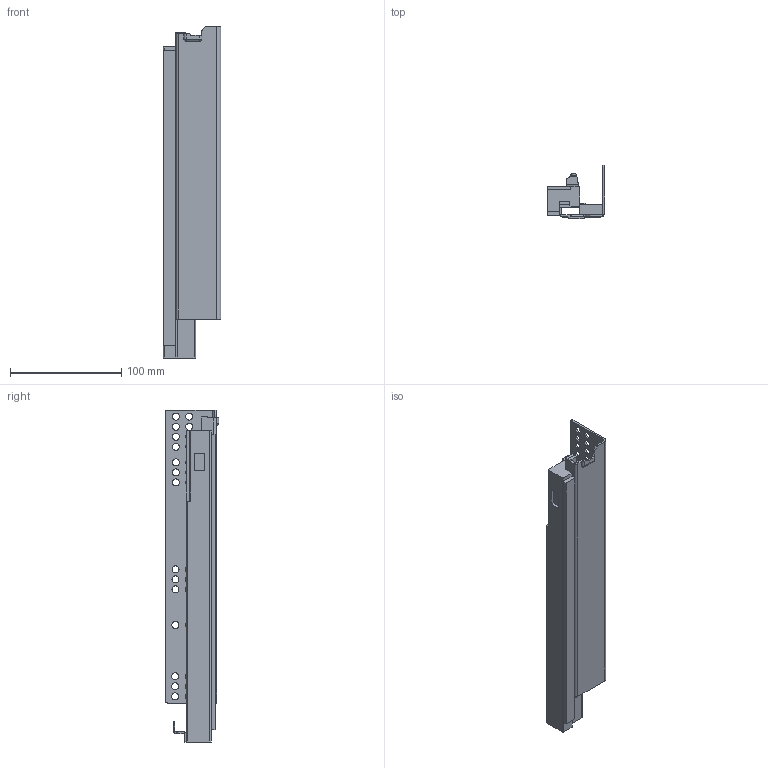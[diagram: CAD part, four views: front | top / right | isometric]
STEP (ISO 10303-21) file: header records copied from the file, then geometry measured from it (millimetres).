
FILE_DESCRIPTION (( 'STEP AP203' ), '1' );
FILE_NAME ('TS10300H-R-DTC3D-close.STEP', '2021-07-10T01:02:38', ( 'df' ), ( 'Microsoft' ), 'SwSTEP 2.0', 'SolidWorks 2018', '' );
FILE_SCHEMA (( 'CONFIG_CONTROL_DESIGN' ));
Length unit declared in the file: millimetre
Products named in the file (1): TS10300H-R-DTC3D-close
Bounding box: 51.73 x 48 x 298 mm (x, y, z)
Volume: 238270.4 mm3; surface area: 76066.4 mm2
Topology: 1 solids, 1 shells, 296 faces, 840 edges, 550 vertices
Faces by surface type: plane 122, cylinder 108, bspline 47, torus 15, sphere 4
Entity records: 11449 total; most frequent: CARTESIAN_POINT 3735, ORIENTED_EDGE 1672, DIRECTION 1464, EDGE_CURVE 836, VERTEX_POINT 550, AXIS2_PLACEMENT_3D 495, VECTOR 474, LINE 474
